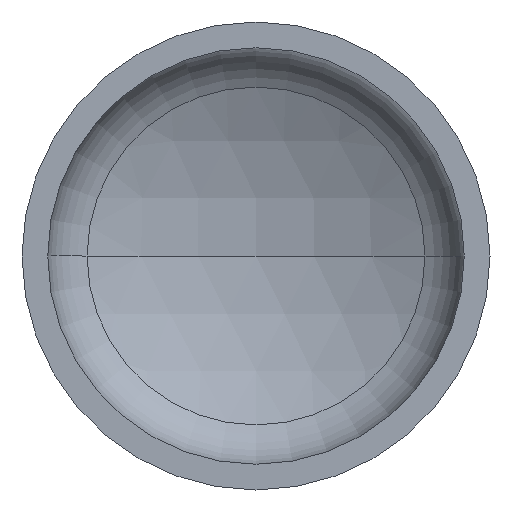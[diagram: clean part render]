
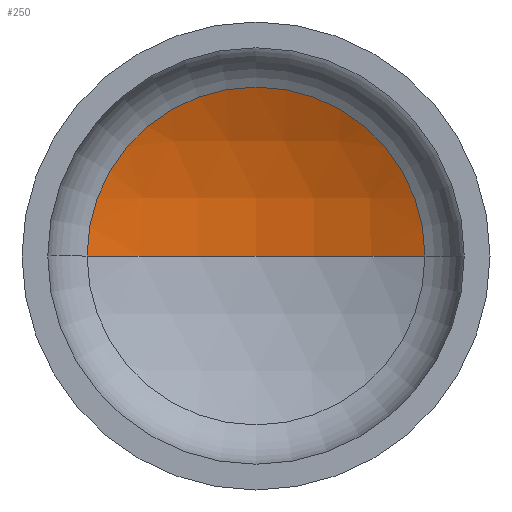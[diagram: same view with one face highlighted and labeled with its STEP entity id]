
A CAD part, front view. The second image highlights one B-rep face of the part: STEP entity #250.
In plain terms, the highlighted spherical face has radius 1280 mm.
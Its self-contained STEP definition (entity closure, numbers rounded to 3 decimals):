
#4 = AXIS2_PLACEMENT_3D ( 'NONE', #172, #176, #51 ) ;
#9 = DIRECTION ( 'NONE',  ( 0., 0., 1. ) ) ;
#18 = AXIS2_PLACEMENT_3D ( 'NONE', #345, #9, #402 ) ;
#19 = AXIS2_PLACEMENT_3D ( 'NONE', #189, #191, #192 ) ;
#20 = AXIS2_PLACEMENT_3D ( 'NONE', #219, #222, #213 ) ;
#32 = EDGE_LOOP ( 'NONE', ( #196, #150, #384 ) ) ;
#51 = DIRECTION ( 'NONE',  ( -1., 0., 0. ) ) ;
#58 = EDGE_CURVE ( 'NONE', #119, #94, #244, .T. ) ;
#60 = EDGE_CURVE ( 'NONE', #121, #119, #174, .T. ) ;
#62 = EDGE_CURVE ( 'NONE', #121, #94, #365, .T. ) ;
#94 = VERTEX_POINT ( 'NONE', #294 ) ;
#119 = VERTEX_POINT ( 'NONE', #264 ) ;
#121 = VERTEX_POINT ( 'NONE', #186 ) ;
#135 = FACE_OUTER_BOUND ( 'NONE', #32, .T. ) ;
#150 = ORIENTED_EDGE ( 'NONE', *, *, #60, .T. ) ;
#172 = CARTESIAN_POINT ( 'NONE',  ( 0., -823.654, 0. ) ) ;
#174 = CIRCLE ( 'NONE', #19, 1280. ) ;
#176 = DIRECTION ( 'NONE',  ( 0., 0., -1. ) ) ;
#186 = CARTESIAN_POINT ( 'NONE',  ( 0., 456.346, 0. ) ) ;
#189 = CARTESIAN_POINT ( 'NONE',  ( 0., -823.654, 0. ) ) ;
#191 = DIRECTION ( 'NONE',  ( 0., 0., -1. ) ) ;
#192 = DIRECTION ( 'NONE',  ( -1., 0., 0. ) ) ;
#196 = ORIENTED_EDGE ( 'NONE', *, *, #62, .F. ) ;
#213 = DIRECTION ( 'NONE',  ( 1., 0., 0. ) ) ;
#219 = CARTESIAN_POINT ( 'NONE',  ( 0., 318.643, 0. ) ) ;
#222 = DIRECTION ( 'NONE',  ( 0., -1., 0. ) ) ;
#244 = CIRCLE ( 'NONE', #20, 577.546 ) ;
#250 = ADVANCED_FACE ( 'NONE', ( #135 ), #354, .F. ) ;
#264 = CARTESIAN_POINT ( 'NONE',  ( 577.546, 318.643, 0. ) ) ;
#294 = CARTESIAN_POINT ( 'NONE',  ( -577.546, 318.643, 0. ) ) ;
#345 = CARTESIAN_POINT ( 'NONE',  ( 0., -823.654, 0. ) ) ;
#354 = SPHERICAL_SURFACE ( 'NONE', #4, 1280. ) ;
#365 = CIRCLE ( 'NONE', #18, 1280. ) ;
#384 = ORIENTED_EDGE ( 'NONE', *, *, #58, .T. ) ;
#402 = DIRECTION ( 'NONE',  ( 1., 0., 0. ) ) ;
